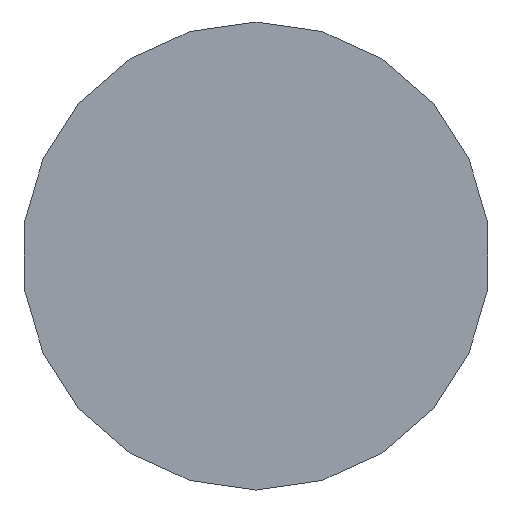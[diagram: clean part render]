
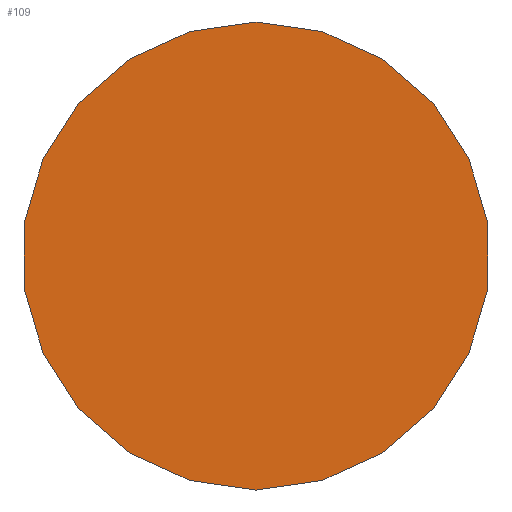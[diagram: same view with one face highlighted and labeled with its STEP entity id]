
A CAD part, left-side view. The second image highlights one B-rep face of the part: STEP entity #109.
In plain terms, the highlighted planar face has unit normal (-1, 0, 0).
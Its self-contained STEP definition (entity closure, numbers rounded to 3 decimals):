
#31 = CYLINDRICAL_SURFACE('',#32,0.6);
#32 = AXIS2_PLACEMENT_3D('',#33,#34,#35);
#33 = CARTESIAN_POINT('',(128.5,19.,0.));
#34 = DIRECTION('',(1.,0.,0.));
#35 = DIRECTION('',(-0.,0.,1.));
#56 = VERTEX_POINT('',#57);
#57 = CARTESIAN_POINT('',(128.5,19.,0.6));
#78 = EDGE_CURVE('',#56,#56,#79,.T.);
#79 = SURFACE_CURVE('',#80,(#85,#92),.PCURVE_S1.);
#80 = CIRCLE('',#81,0.6);
#81 = AXIS2_PLACEMENT_3D('',#82,#83,#84);
#82 = CARTESIAN_POINT('',(128.5,19.,0.));
#83 = DIRECTION('',(1.,0.,0.));
#84 = DIRECTION('',(-0.,0.,1.));
#85 = PCURVE('',#31,#86);
#86 = DEFINITIONAL_REPRESENTATION('',(#87),#91);
#87 = LINE('',#88,#89);
#88 = CARTESIAN_POINT('',(0.,0.));
#89 = VECTOR('',#90,1.);
#90 = DIRECTION('',(1.,0.));
#91 = ( GEOMETRIC_REPRESENTATION_CONTEXT(2) 
PARAMETRIC_REPRESENTATION_CONTEXT() REPRESENTATION_CONTEXT('2D SPACE',''
  ) );
#92 = PCURVE('',#93,#98);
#93 = PLANE('',#94);
#94 = AXIS2_PLACEMENT_3D('',#95,#96,#97);
#95 = CARTESIAN_POINT('',(128.5,19.,0.));
#96 = DIRECTION('',(1.,0.,0.));
#97 = DIRECTION('',(-0.,0.,1.));
#98 = DEFINITIONAL_REPRESENTATION('',(#99),#103);
#99 = CIRCLE('',#100,0.6);
#100 = AXIS2_PLACEMENT_2D('',#101,#102);
#101 = CARTESIAN_POINT('',(0.,0.));
#102 = DIRECTION('',(1.,0.));
#103 = ( GEOMETRIC_REPRESENTATION_CONTEXT(2) 
PARAMETRIC_REPRESENTATION_CONTEXT() REPRESENTATION_CONTEXT('2D SPACE',''
  ) );
#109 = ADVANCED_FACE('',(#110),#93,.F.);
#110 = FACE_BOUND('',#111,.T.);
#111 = EDGE_LOOP('',(#112));
#112 = ORIENTED_EDGE('',*,*,#78,.F.);
